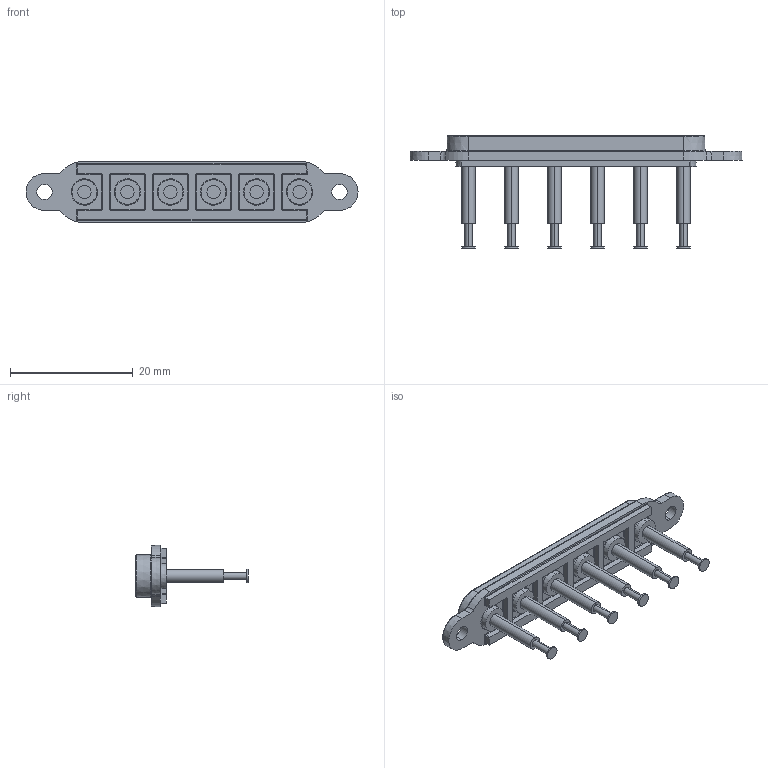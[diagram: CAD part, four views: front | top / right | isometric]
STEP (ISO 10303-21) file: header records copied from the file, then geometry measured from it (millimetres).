
FILE_DESCRIPTION (( 'STEP AP214' ), '1' );
FILE_NAME ('ICA-6-LT.STEP', '2023-02-08T10:39:55', ( '' ), ( '' ), 'SwSTEP 2.0', 'SolidWorks 2022', '' );
FILE_SCHEMA (( 'AUTOMOTIVE_DESIGN' ));
Length unit declared in the file: millimetre
Products named in the file (3): ICA-6-LT; SD L 6; ICL11RDC
Assembly tree (7 placements, depth 2):
  ICA-6-LT
    SD L 6
    ICL11RDC  x6
Bounding box: 54 x 18.3 x 10 mm (x, y, z)
Volume: 1839.2 mm3; surface area: 2658.3 mm2
Topology: 7 solids, 7 shells, 426 faces, 896 edges, 532 vertices
Faces by surface type: cylinder 154, cone 104, plane 98, bspline 70
Entity records: 12566 total; most frequent: CARTESIAN_POINT 3437, DIRECTION 1280, ORIENTED_EDGE 1272, EDGE_CURVE 636, AXIS2_PLACEMENT_3D 507, VERTEX_POINT 372, EDGE_LOOP 330, FACE_OUTER_BOUND 291
